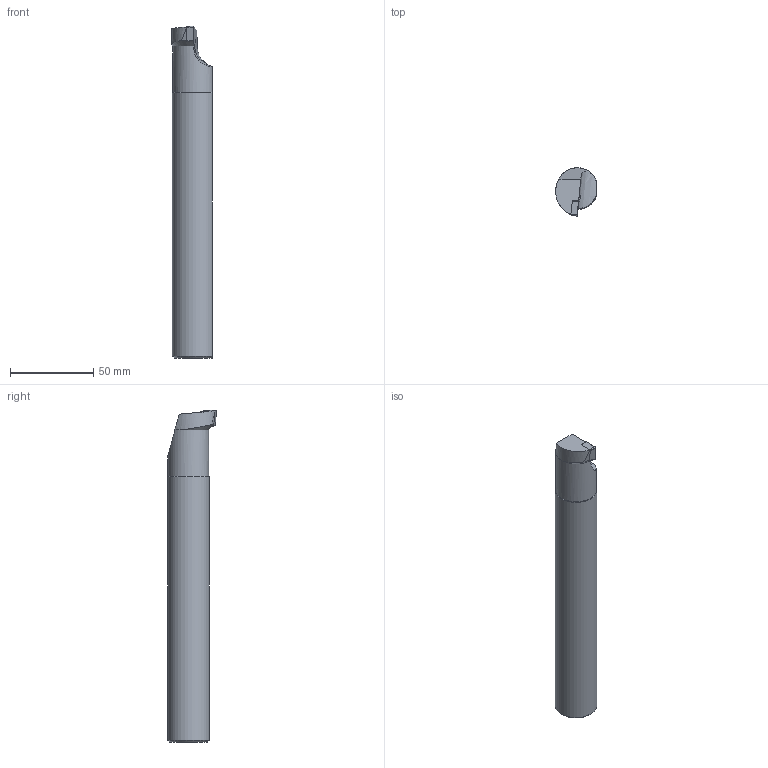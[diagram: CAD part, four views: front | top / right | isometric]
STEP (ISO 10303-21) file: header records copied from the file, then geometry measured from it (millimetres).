
FILE_DESCRIPTION(/* description */ (''),/* implementation_level */ '2;1');
FILE_NAME(/* name */ 'A25R-SCLCR-09-HAAS.stp',/* time_stamp */ '2021-09-29T09:42:11+09:00',/* author */ (''),/* organization */ (''),/* preprocessor_version */ 'ST-DEVELOPER v16.7',/* originating_system */ 'SIEMENS PLM Software NX 1946',/* authorisation */ '');
FILE_SCHEMA (('AUTOMOTIVE_DESIGN { 1 0 10303 214 3 1 1 1 }'));
Length unit declared in the file: millimetre
Products named in the file (1): user0130CD5E65p5
Bounding box: 24.48 x 29.45 x 199.96 mm (x, y, z)
Volume: 86481.1 mm3; surface area: 19780.2 mm2
Topology: 2 solids, 2 shells, 30 faces, 71 edges, 47 vertices
Faces by surface type: plane 14, cone 8, cylinder 6, bspline 1, torus 1
Full cylindrical faces by diameter (mm): 2.5 x1, 6 x1
Entity records: 1079 total; most frequent: CARTESIAN_POINT 292, DIRECTION 138, ORIENTED_EDGE 132, EDGE_CURVE 66, AXIS2_PLACEMENT_3D 56, VERTEX_POINT 45, EDGE_LOOP 37, ADVANCED_FACE 30
